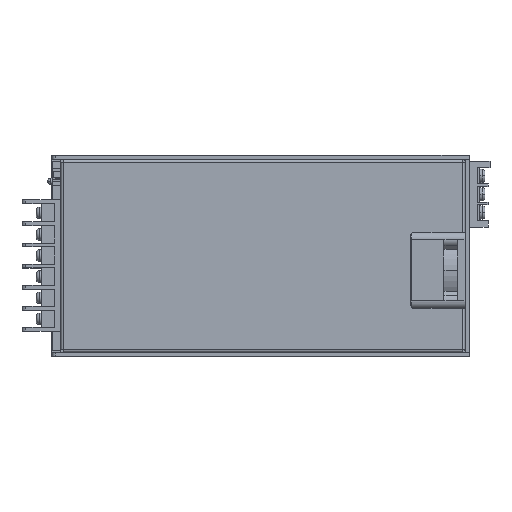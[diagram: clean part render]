
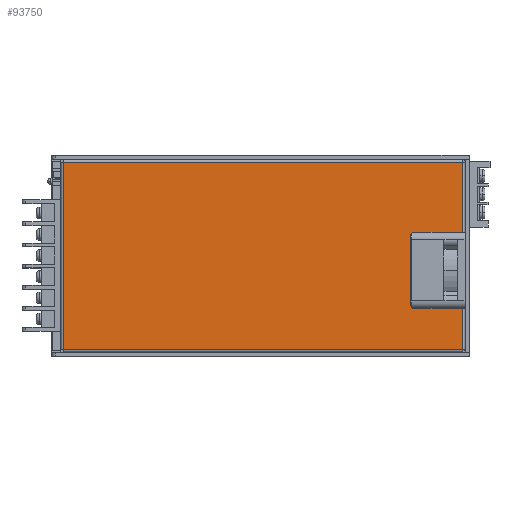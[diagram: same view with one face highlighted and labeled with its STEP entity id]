
A CAD part, top view. The second image highlights one B-rep face of the part: STEP entity #93750.
In plain terms, the highlighted planar face has unit normal (0, 0, 1).
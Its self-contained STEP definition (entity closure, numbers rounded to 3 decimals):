
#72470=CARTESIAN_POINT('',(51.167,65.858,63.5));
#72480=VERTEX_POINT('',#72470);
#72510=CARTESIAN_POINT('',(181.231,65.858,63.5));
#72520=DIRECTION('',(-1.,0.,0.));
#72530=VECTOR('',#72520,1.);
#72540=LINE('',#72510,#72530);
#72550=CARTESIAN_POINT('',(259.578,65.858,63.5));
#72560=VERTEX_POINT('',#72550);
#72570=EDGE_CURVE('',#72560,#72480,#72540,.T.);
#81560=CARTESIAN_POINT('',(51.167,163.858,63.5));
#81570=VERTEX_POINT('',#81560);
#83810=CARTESIAN_POINT('',(51.167,107.9,63.5))
;
#83820=DIRECTION('',(0.,1.,0.));
#83830=VECTOR('',#83820,1.);
#83840=LINE('',#83810,#83830);
#83850=EDGE_CURVE('',#72480,#81570,#83840,.T.);
#90800=CARTESIAN_POINT('',(259.578,163.858,63.5));
#90810=VERTEX_POINT('',#90800);
#92700=CARTESIAN_POINT('',(181.231,163.858,63.5))
;
#92710=DIRECTION('',(-1.,0.,0.));
#92720=VECTOR('',#92710,1.);
#92730=LINE('',#92700,#92720);
#92740=EDGE_CURVE('',#90810,#81570,#92730,.T.);
#92940=CARTESIAN_POINT('',(259.578,107.9,63.5)
);
#92950=DIRECTION('',(0.,-1.,0.));
#92960=VECTOR('',#92950,1.);
#92970=LINE('',#92940,#92960);
#92980=CARTESIAN_POINT('',(259.578,87.558,63.5));
#92990=VERTEX_POINT('',#92980);
#93000=EDGE_CURVE('',#92990,#72560,#92970,.T.);
#93200=CARTESIAN_POINT('',(260.878,64.558,63.5));
#93210=DIRECTION('',(0.,0.,1.));
#93220=DIRECTION('',(-1.,0.,0.));
#93230=AXIS2_PLACEMENT_3D('',#93200,#93210,#93220);
#93240=PLANE('',#93230);
#93250=ORIENTED_EDGE('',*,*,#72570,.F.);
#93260=ORIENTED_EDGE('',*,*,#83850,.F.);
#93270=ORIENTED_EDGE('',*,*,#92740,.T.);
#93280=CARTESIAN_POINT('',(259.578,127.158,63.5));
#93290=VERTEX_POINT('',#93280);
#93300=EDGE_CURVE('',#90810,#93290,#92970,.T.);
#93310=ORIENTED_EDGE('',*,*,#93300,.F.);
#93320=CARTESIAN_POINT('',(181.231,127.158,63.5))
;
#93330=DIRECTION('',(-1.,0.,0.));
#93340=VECTOR('',#93330,1.);
#93350=LINE('',#93320,#93340);
#93360=CARTESIAN_POINT('',(234.228,127.158,63.5));
#93370=VERTEX_POINT('',#93360);
#93380=EDGE_CURVE('',#93290,#93370,#93350,.T.);
#93390=ORIENTED_EDGE('',*,*,#93380,.F.);
#93400=CARTESIAN_POINT('',(234.228,125.658,63.5));
#93410=DIRECTION('',(0.,0.,1.));
#93420=DIRECTION('',(1.,0.,0.));
#93430=AXIS2_PLACEMENT_3D('',#93400,#93410,#93420);
#93440=CIRCLE('',#93430,1.5);
#93450=CARTESIAN_POINT('',(232.728,125.658,63.5));
#93460=VERTEX_POINT('',#93450);
#93470=EDGE_CURVE('',#93370,#93460,#93440,.T.);
#93480=ORIENTED_EDGE('',*,*,#93470,.F.);
#93490=CARTESIAN_POINT('',(232.728,107.9,63.5)
);
#93500=DIRECTION('',(0.,-1.,0.));
#93510=VECTOR('',#93500,1.);
#93520=LINE('',#93490,#93510);
#93530=CARTESIAN_POINT('',(232.728,89.058,63.5));
#93540=VERTEX_POINT('',#93530);
#93550=EDGE_CURVE('',#93460,#93540,#93520,.T.);
#93560=ORIENTED_EDGE('',*,*,#93550,.F.);
#93570=CARTESIAN_POINT('',(234.228,89.058,63.5));
#93580=DIRECTION('',(0.,0.,1.));
#93590=DIRECTION('',(1.,0.,0.));
#93600=AXIS2_PLACEMENT_3D('',#93570,#93580,#93590);
#93610=CIRCLE('',#93600,1.5);
#93620=CARTESIAN_POINT('',(234.228,87.558,63.5));
#93630=VERTEX_POINT('',#93620);
#93640=EDGE_CURVE('',#93540,#93630,#93610,.T.);
#93650=ORIENTED_EDGE('',*,*,#93640,.F.);
#93660=CARTESIAN_POINT('',(181.231,87.558,63.5));
#93670=DIRECTION('',(1.,0.,0.));
#93680=VECTOR('',#93670,1.);
#93690=LINE('',#93660,#93680);
#93700=EDGE_CURVE('',#93630,#92990,#93690,.T.);
#93710=ORIENTED_EDGE('',*,*,#93700,.F.);
#93720=ORIENTED_EDGE('',*,*,#93000,.F.);
#93730=EDGE_LOOP('',(#93720,#93710,#93650,#93560,#93480,#93390,#93310,
#93270,#93260,#93250));
#93740=FACE_OUTER_BOUND('',#93730,.T.);
#93750=ADVANCED_FACE('',(#93740),#93240,.T.);
